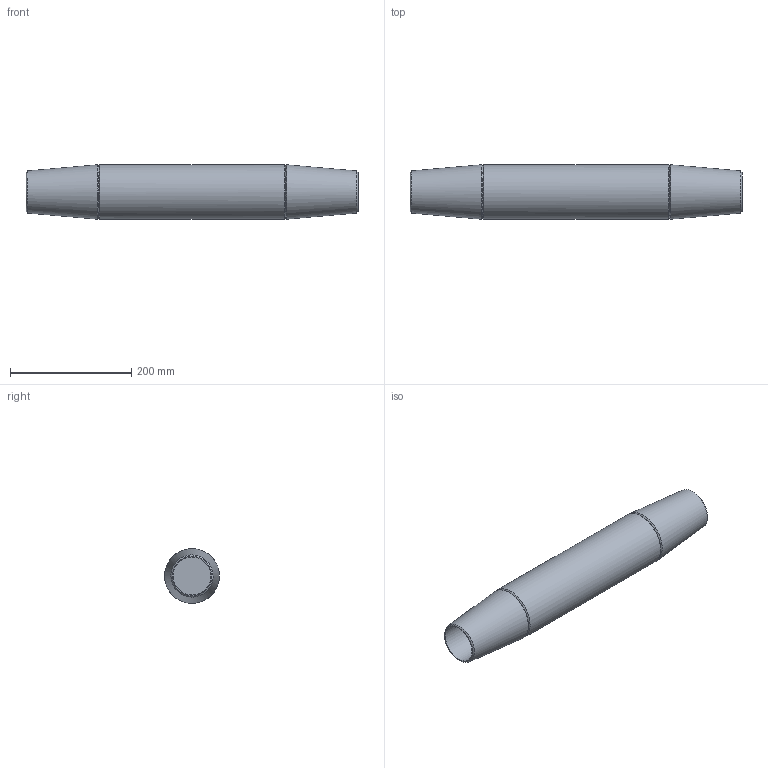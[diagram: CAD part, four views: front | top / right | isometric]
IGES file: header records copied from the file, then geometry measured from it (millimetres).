
Global section: file name: 520-060-MUF; native system: Autodesk Inventor 2016; preprocessor: unknown; author: Administrator; date: 20200630.131947; units: centimetre
Bounding box: 547 x 90 x 89.89 mm (x, y, z)
Volume: 2602551.6 mm3; surface area: 190081.7 mm2
Topology: 1 solids, 1 shells, 15 faces, 35 edges, 24 vertices
Faces by surface type: bspline 15
